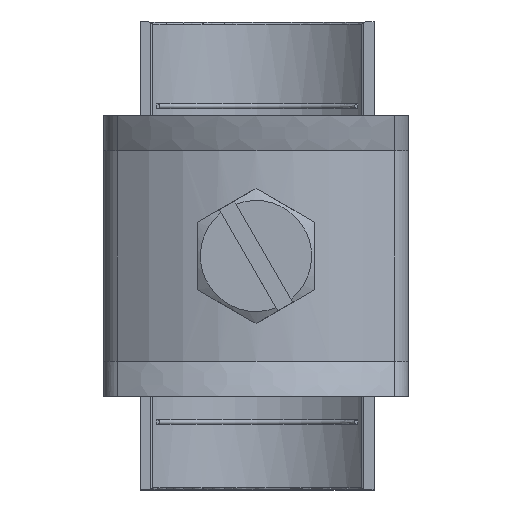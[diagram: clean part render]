
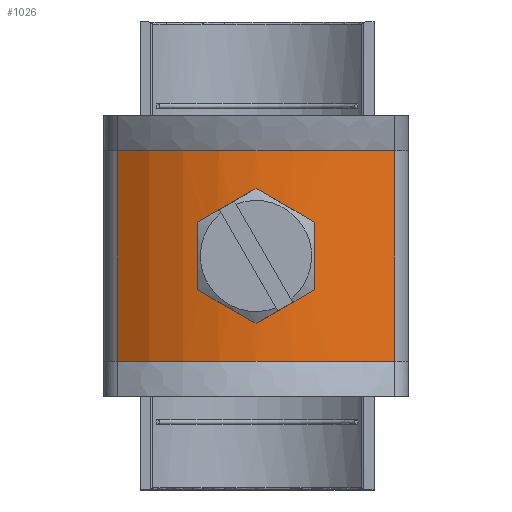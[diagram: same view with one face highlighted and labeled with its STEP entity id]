
A CAD part, front view. The second image highlights one B-rep face of the part: STEP entity #1026.
In plain terms, the highlighted cylindrical face has radius 19.232 mm (diameter 38.464 mm), a partial arc.
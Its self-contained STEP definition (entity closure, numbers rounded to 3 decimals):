
#1026=ADVANCED_FACE('',(#2893,#2895),#2897,.T.);
#2893=FACE_BOUND('',#2894,.T.);
#2894=EDGE_LOOP('',(#4069,#4070,#4071,#4072));
#2895=FACE_BOUND('',#2896,.T.);
#2896=EDGE_LOOP('',(#4073));
#2897=CYLINDRICAL_SURFACE('',#2898,19.232);
#2898=AXIS2_PLACEMENT_3D('',#2899,#2900,#2901);
#2899=CARTESIAN_POINT('',(0.,19.232,-9.));
#2900=DIRECTION('',(0.,0.,1.));
#2901=DIRECTION('',(-0.616,-0.788,0.));
#4069=ORIENTED_EDGE('',*,*,#4618,.F.);
#4070=ORIENTED_EDGE('',*,*,#4681,.T.);
#4071=ORIENTED_EDGE('',*,*,#4662,.F.);
#4072=ORIENTED_EDGE('',*,*,#4682,.F.);
#4073=ORIENTED_EDGE('',*,*,#4683,.F.);
#4618=EDGE_CURVE('',#5248,#5251,#5252,.F.);
#4662=EDGE_CURVE('',#5313,#5316,#5317,.T.);
#4681=EDGE_CURVE('',#5248,#5316,#5336,.T.);
#4682=EDGE_CURVE('',#5251,#5313,#5337,.T.);
#4683=EDGE_CURVE('',#5338,#5338,#5339,.T.);
#5248=VERTEX_POINT('',#6796);
#5251=VERTEX_POINT('',#6804);
#5252=CIRCLE('',#6805,19.232);
#5313=VERTEX_POINT('',#6961);
#5316=VERTEX_POINT('',#6969);
#5317=CIRCLE('',#6970,19.232);
#5336=LINE('',#7029,#7030);
#5337=LINE('',#7032,#7033);
#5338=VERTEX_POINT('',#7035);
#5339=B_SPLINE_CURVE_WITH_KNOTS('',3,
(#7036,#7037,#7038,#7039,#7040,#7041,#7042,#7043,#7044,#7045,#7046,#7047,#7048,#7049,
#7050,#7051,#7052,#7053,#7054,#7055,#7056,#7057,#7058,#7059,#7060,#7061,#7062,#7063,
#7064,#7065,#7066,#7067,#7068,#7069,#7070,#7071,#7072,#7073,#7074,#7075,#7076,#7077,
#7078,#7079,#7080,#7081,#7082,#7083,#7084,#7085,#7086,#7087,#7088,#7089,#7090,#7091,
#7092,#7093,#7094,#7095,#7096,#7097,#7098,#7099,#7100,#7101,#7102,#7103,#7104,#7105,
#7106,#7107,#7108,#7109,#7110,#7111,#7112,#7113,#7114,#7115),
.UNSPECIFIED.,.T.,.F.,
(4,1,1,1,1,1,1,1,1,1,1,1,1,1,1,1,1,1,1,1,1,1,1,1,1,1,1,1,1,1,1,1,1,1,1,1,1,1,1,1,
1,1,1,1,1,1,1,1,1,1,1,1,1,1,1,1,1,1,1,1,1,1,1,1,1,1,1,1,1,1,1,1,1,1,1,1,1,4),
(0.,0.016,0.034,0.053,0.074,
0.095,0.117,0.138,0.157,0.173,
0.19,0.205,0.218,0.226,0.234,
0.243,0.252,0.261,0.269,0.276,
0.284,0.294,0.305,0.32,0.338,
0.356,0.374,0.391,0.409,0.429,
0.45,0.47,0.486,0.499,0.509,
0.518,0.525,0.532,0.538,0.545,
0.552,0.561,0.571,0.582,0.592,
0.601,0.609,0.62,0.631,0.643,
0.653,0.661,0.67,0.678,0.686,
0.698,0.709,0.721,0.732,0.743,
0.754,0.765,0.777,0.79,0.807,
0.826,0.846,0.866,0.884,0.899,
0.913,0.926,0.94,0.955,0.97,
0.982,0.992,1.),
.UNSPECIFIED.);
#6796=CARTESIAN_POINT('',(11.848,4.083,-9.));
#6804=CARTESIAN_POINT('',(-11.848,4.083,-9.));
#6805=AXIS2_PLACEMENT_3D('',#6806,#6807,#6808);
#6806=CARTESIAN_POINT('',(0.,19.232,-9.));
#6807=DIRECTION('',(0.,0.,1.));
#6808=DIRECTION('',(-0.616,-0.788,0.));
#6961=CARTESIAN_POINT('',(-11.848,4.083,9.));
#6969=CARTESIAN_POINT('',(11.848,4.083,9.));
#6970=AXIS2_PLACEMENT_3D('',#6971,#6972,#6973);
#6971=CARTESIAN_POINT('',(0.,19.232,9.));
#6972=DIRECTION('',(0.,0.,1.));
#6973=DIRECTION('',(-0.616,-0.788,0.));
#7029=CARTESIAN_POINT('',(11.848,4.083,-9.));
#7030=VECTOR('',#7031,1.);
#7031=DIRECTION('',(0.,0.,1.));
#7032=CARTESIAN_POINT('',(-11.848,4.083,-9.));
#7033=VECTOR('',#7034,1.);
#7034=DIRECTION('',(0.,0.,1.));
#7035=CARTESIAN_POINT('',(3.741,0.371,0.));
#7036=CARTESIAN_POINT('',(3.742,0.367,0.));
#7037=CARTESIAN_POINT('',(3.742,0.367,0.131));
#7038=CARTESIAN_POINT('',(3.728,0.365,0.402));
#7039=CARTESIAN_POINT('',(3.662,0.352,0.819));
#7040=CARTESIAN_POINT('',(3.541,0.329,1.257));
#7041=CARTESIAN_POINT('',(3.358,0.295,1.701));
#7042=CARTESIAN_POINT('',(3.107,0.252,2.137));
#7043=CARTESIAN_POINT('',(2.8,0.204,2.538));
#7044=CARTESIAN_POINT('',(2.452,0.156,2.883));
#7045=CARTESIAN_POINT('',(2.097,0.114,3.157));
#7046=CARTESIAN_POINT('',(1.741,0.078,3.372));
#7047=CARTESIAN_POINT('',(1.393,0.049,3.534));
#7048=CARTESIAN_POINT('',(1.063,0.029,3.648));
#7049=CARTESIAN_POINT('',(0.789,0.016,3.717));
#7050=CARTESIAN_POINT('',(0.565,0.008,3.758));
#7051=CARTESIAN_POINT('',(0.367,0.003,3.783));
#7052=CARTESIAN_POINT('',(0.164,0.,3.798));
#7053=CARTESIAN_POINT('',(-0.045,0.,3.802));
#7054=CARTESIAN_POINT('',(-0.247,0.001,3.793));
#7055=CARTESIAN_POINT('',(-0.434,0.005,3.776));
#7056=CARTESIAN_POINT('',(-0.613,0.01,3.75));
#7057=CARTESIAN_POINT('',(-0.806,0.017,3.713));
#7058=CARTESIAN_POINT('',(-1.033,0.027,3.655));
#7059=CARTESIAN_POINT('',(-1.304,0.044,3.566));
#7060=CARTESIAN_POINT('',(-1.623,0.068,3.431));
#7061=CARTESIAN_POINT('',(-1.974,0.1,3.238));
#7062=CARTESIAN_POINT('',(-2.324,0.14,2.989));
#7063=CARTESIAN_POINT('',(-2.637,0.181,2.706));
#7064=CARTESIAN_POINT('',(-2.916,0.222,2.394));
#7065=CARTESIAN_POINT('',(-3.168,0.262,2.039));
#7066=CARTESIAN_POINT('',(-3.392,0.301,1.628));
#7067=CARTESIAN_POINT('',(-3.567,0.334,1.18));
#7068=CARTESIAN_POINT('',(-3.678,0.355,0.74));
#7069=CARTESIAN_POINT('',(-3.731,0.365,0.351));
#7070=CARTESIAN_POINT('',(-3.745,0.368,0.04));
#7071=CARTESIAN_POINT('',(-3.738,0.367,-0.21));
#7072=CARTESIAN_POINT('',(-3.721,0.363,-0.412));
#7073=CARTESIAN_POINT('',(-3.698,0.359,-0.589));
#7074=CARTESIAN_POINT('',(-3.67,0.353,-0.747));
#7075=CARTESIAN_POINT('',(-3.637,0.347,-0.899));
#7076=CARTESIAN_POINT('',(-3.596,0.339,-1.055));
#7077=CARTESIAN_POINT('',(-3.543,0.329,-1.228));
#7078=CARTESIAN_POINT('',(-3.471,0.316,-1.424));
#7079=CARTESIAN_POINT('',(-3.376,0.299,-1.645));
#7080=CARTESIAN_POINT('',(-3.262,0.279,-1.867));
#7081=CARTESIAN_POINT('',(-3.138,0.258,-2.074));
#7082=CARTESIAN_POINT('',(-3.018,0.238,-2.25));
#7083=CARTESIAN_POINT('',(-2.887,0.218,-2.421));
#7084=CARTESIAN_POINT('',(-2.735,0.195,-2.598));
#7085=CARTESIAN_POINT('',(-2.547,0.169,-2.788));
#7086=CARTESIAN_POINT('',(-2.353,0.144,-2.959));
#7087=CARTESIAN_POINT('',(-2.163,0.122,-3.103));
#7088=CARTESIAN_POINT('',(-1.991,0.103,-3.22));
#7089=CARTESIAN_POINT('',(-1.821,0.086,-3.322));
#7090=CARTESIAN_POINT('',(-1.647,0.07,-3.414));
#7091=CARTESIAN_POINT('',(-1.447,0.054,-3.507));
#7092=CARTESIAN_POINT('',(-1.214,0.038,-3.598));
#7093=CARTESIAN_POINT('',(-0.95,0.023,-3.679));
#7094=CARTESIAN_POINT('',(-0.686,0.012,-3.739));
#7095=CARTESIAN_POINT('',(-0.426,0.004,-3.778));
#7096=CARTESIAN_POINT('',(-0.171,0.,-3.799));
#7097=CARTESIAN_POINT('',(0.094,0.,-3.802));
#7098=CARTESIAN_POINT('',(0.364,0.003,-3.785));
#7099=CARTESIAN_POINT('',(0.649,0.01,-3.746));
#7100=CARTESIAN_POINT('',(0.968,0.023,-3.676));
#7101=CARTESIAN_POINT('',(1.336,0.045,-3.558));
#7102=CARTESIAN_POINT('',(1.737,0.077,-3.377));
#7103=CARTESIAN_POINT('',(2.133,0.117,-3.134));
#7104=CARTESIAN_POINT('',(2.488,0.161,-2.85));
#7105=CARTESIAN_POINT('',(2.781,0.202,-2.552));
#7106=CARTESIAN_POINT('',(3.012,0.237,-2.263));
#7107=CARTESIAN_POINT('',(3.195,0.267,-1.986));
#7108=CARTESIAN_POINT('',(3.351,0.294,-1.701));
#7109=CARTESIAN_POINT('',(3.488,0.319,-1.389));
#7110=CARTESIAN_POINT('',(3.6,0.34,-1.054));
#7111=CARTESIAN_POINT('',(3.677,0.355,-0.727));
#7112=CARTESIAN_POINT('',(3.719,0.363,-0.441));
#7113=CARTESIAN_POINT('',(3.738,0.367,-0.204));
#7114=CARTESIAN_POINT('',(3.742,0.367,-0.064));
#7115=CARTESIAN_POINT('',(3.742,0.367,0.));
